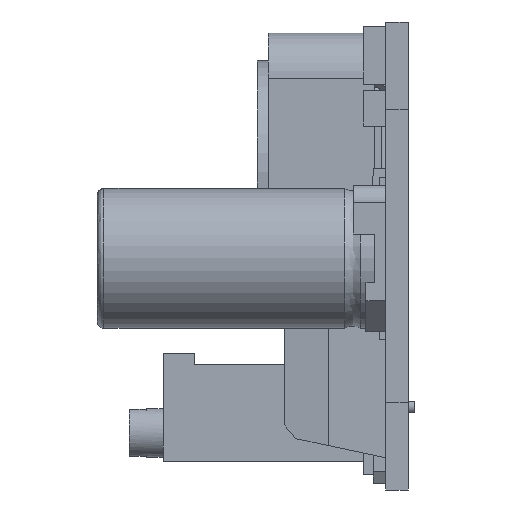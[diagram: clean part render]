
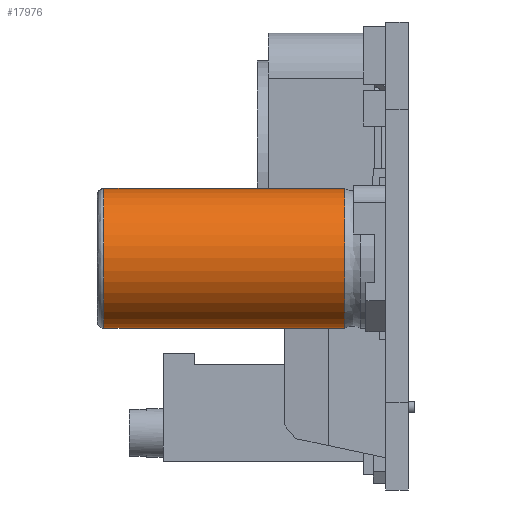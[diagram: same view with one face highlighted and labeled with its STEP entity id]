
A CAD part, left-side view. The second image highlights one B-rep face of the part: STEP entity #17976.
In plain terms, the highlighted cylindrical face has radius 3.15 mm (diameter 6.3 mm), a partial arc.
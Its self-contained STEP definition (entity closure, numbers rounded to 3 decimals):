
#117 = EDGE_CURVE ( 'NONE', #3782, #7304, #9244, .T. ) ;
#405 = LINE ( 'NONE', #14158, #18115 ) ;
#612 = CYLINDRICAL_SURFACE ( 'NONE', #5065, 3.15 ) ;
#1080 = ORIENTED_EDGE ( 'NONE', *, *, #3825, .F. ) ;
#2861 = ORIENTED_EDGE ( 'NONE', *, *, #3095, .T. ) ;
#3095 = EDGE_CURVE ( 'NONE', #7304, #18997, #405, .T. ) ;
#3108 = CARTESIAN_POINT ( 'NONE',  ( -3.15, 12.7, 0. ) ) ;
#3599 = DIRECTION ( 'NONE',  ( -1., 0., 0. ) ) ;
#3782 = VERTEX_POINT ( 'NONE', #19586 ) ;
#3825 = EDGE_CURVE ( 'NONE', #3782, #12354, #7278, .T. ) ;
#4026 = DIRECTION ( 'NONE',  ( -1., 0., 0. ) ) ;
#4228 = CARTESIAN_POINT ( 'NONE',  ( 0., 1.85, 0. ) ) ;
#4290 = EDGE_LOOP ( 'NONE', ( #1080, #9143, #2861, #5567 ) ) ;
#5065 = AXIS2_PLACEMENT_3D ( 'NONE', #16223, #17656, #3599 ) ;
#5567 = ORIENTED_EDGE ( 'NONE', *, *, #9898, .T. ) ;
#5738 = CARTESIAN_POINT ( 'NONE',  ( 0., 12.7, 0. ) ) ;
#7278 = LINE ( 'NONE', #13546, #14813 ) ;
#7304 = VERTEX_POINT ( 'NONE', #3108 ) ;
#7495 = DIRECTION ( 'NONE',  ( -1., 0., 0. ) ) ;
#7558 = CIRCLE ( 'NONE', #16106, 3.15 ) ;
#9143 = ORIENTED_EDGE ( 'NONE', *, *, #117, .T. ) ;
#9235 = DIRECTION ( 'NONE',  ( 0., -1., 0. ) ) ;
#9244 = CIRCLE ( 'NONE', #18747, 3.15 ) ;
#9898 = EDGE_CURVE ( 'NONE', #18997, #12354, #7558, .T. ) ;
#12131 = DIRECTION ( 'NONE',  ( 0., 1., 0. ) ) ;
#12354 = VERTEX_POINT ( 'NONE', #17073 ) ;
#13546 = CARTESIAN_POINT ( 'NONE',  ( 3.15, 7.7, 0. ) ) ;
#14158 = CARTESIAN_POINT ( 'NONE',  ( -3.15, 7.7, 0. ) ) ;
#14366 = DIRECTION ( 'NONE',  ( 0., -1., 0. ) ) ;
#14813 = VECTOR ( 'NONE', #9235, 1000. ) ;
#16106 = AXIS2_PLACEMENT_3D ( 'NONE', #4228, #12131, #4026 ) ;
#16223 = CARTESIAN_POINT ( 'NONE',  ( 0., 7.7, 0. ) ) ;
#17073 = CARTESIAN_POINT ( 'NONE',  ( 3.15, 1.85, 0. ) ) ;
#17181 = FACE_OUTER_BOUND ( 'NONE', #4290, .T. ) ;
#17656 = DIRECTION ( 'NONE',  ( 0., -1., 0. ) ) ;
#17976 = ADVANCED_FACE ( 'NONE', ( #17181 ), #612, .T. ) ;
#18115 = VECTOR ( 'NONE', #14366, 1000. ) ;
#18747 = AXIS2_PLACEMENT_3D ( 'NONE', #5738, #19798, #7495 ) ;
#18997 = VERTEX_POINT ( 'NONE', #19438 ) ;
#19438 = CARTESIAN_POINT ( 'NONE',  ( -3.15, 1.85, 0. ) ) ;
#19586 = CARTESIAN_POINT ( 'NONE',  ( 3.15, 12.7, 0. ) ) ;
#19798 = DIRECTION ( 'NONE',  ( 0., -1., 0. ) ) ;
